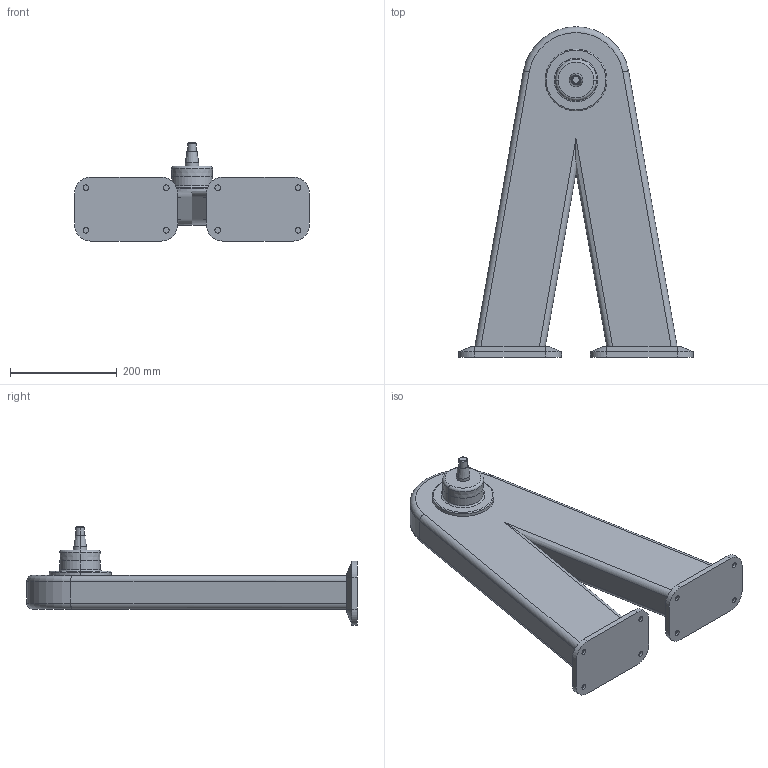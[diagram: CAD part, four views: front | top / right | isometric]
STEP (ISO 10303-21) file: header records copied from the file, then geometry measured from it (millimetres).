
FILE_DESCRIPTION (( 'STEP AP214' ), '1' );
FILE_NAME ('WP850_H520.STEP', '2014-09-08T12:59:27', ( '' ), ( '' ), 'SwSTEP 2.0', 'SolidWorks 2014', '' );
FILE_SCHEMA (( 'AUTOMOTIVE_DESIGN' ));
Length unit declared in the file: millimetre
Products named in the file (1): WP850_H520
Bounding box: 440.41 x 620 x 183.98 mm (x, y, z)
Volume: 9911567.3 mm3; surface area: 493644.5 mm2
Topology: 1 solids, 1 shells, 101 faces, 221 edges, 136 vertices
Faces by surface type: cylinder 41, plane 38, cone 14, torus 8
Entity records: 2795 total; most frequent: DIRECTION 513, CARTESIAN_POINT 489, ORIENTED_EDGE 442, EDGE_CURVE 221, AXIS2_PLACEMENT_3D 200, VERTEX_POINT 136, EDGE_LOOP 115, VECTOR 113
